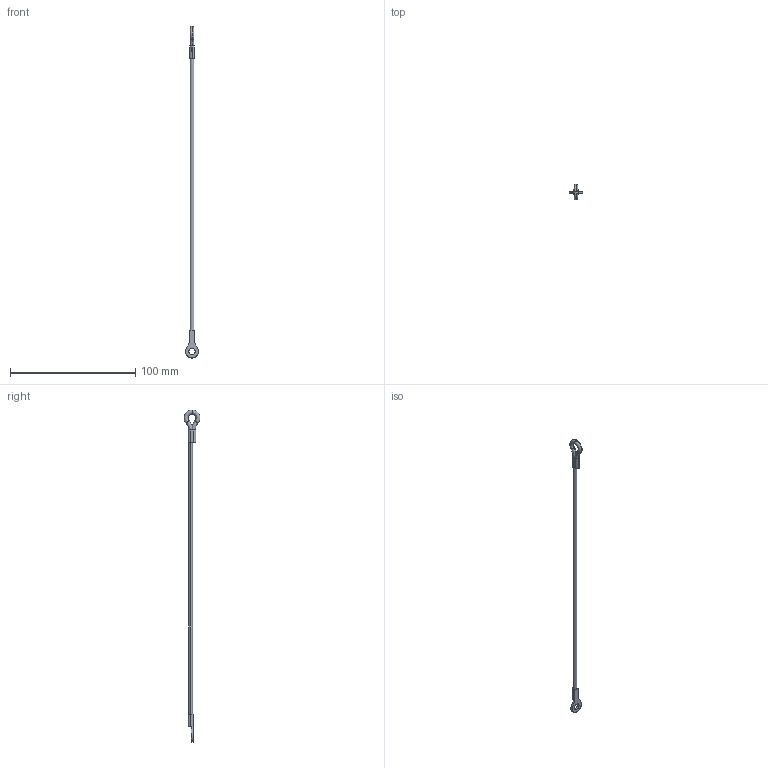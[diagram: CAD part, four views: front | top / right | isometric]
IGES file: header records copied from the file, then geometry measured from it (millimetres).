
Start section: SolidWorks IGES file using analytic representation for surfaces
Global section: file name: C:\Users\ianosborn\Desktop\LA1075_v2\LA1075_v2_20260320_IGES\LA1075.I06-254G1.igs; native system: SolidWorks 2019; preprocessor: SolidWorks 2019; author: IanOsborn; date: 260323.164523; units: millimetre
Bounding box: 10.41 x 12.75 x 265.6 mm (x, y, z)
Surface area: 3094.1 mm2 (no closed solid volume)
Topology: 0 solids, 0 shells, 30 faces, 460 edges, 460 vertices
Faces by surface type: bspline 20, revolution 10
